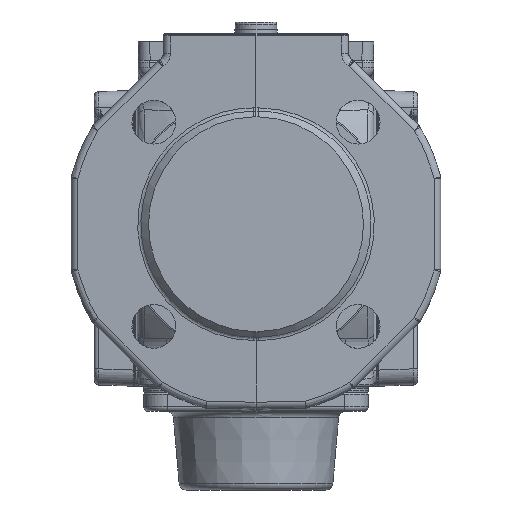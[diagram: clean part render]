
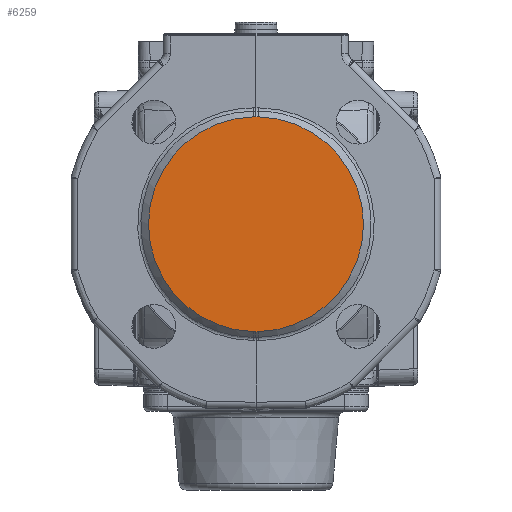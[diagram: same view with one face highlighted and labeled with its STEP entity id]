
A CAD part, left-side view. The second image highlights one B-rep face of the part: STEP entity #6259.
In plain terms, the highlighted planar face has unit normal (-1, 0, 0).
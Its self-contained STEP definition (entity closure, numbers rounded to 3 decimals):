
#3097=B_SPLINE_CURVE_WITH_KNOTS('',3,(#77345,#77346,#77347,#77348,#77349,
#77350,#77351),.UNSPECIFIED.,.F.,.F.,(4,3,4),(0.,0.37,1.),
 .UNSPECIFIED.);
#3101=B_SPLINE_CURVE_WITH_KNOTS('',3,(#77394,#77395,#77396,#77397,#77398,
#77399,#77400),.UNSPECIFIED.,.F.,.F.,(4,3,4),(0.,0.312,1.),
 .UNSPECIFIED.);
#3105=B_SPLINE_CURVE_WITH_KNOTS('',3,(#77458,#77459,#77460,#77461,#77462,
#77463,#77464),.UNSPECIFIED.,.F.,.F.,(4,3,4),(0.,0.312,1.),
 .UNSPECIFIED.);
#3109=B_SPLINE_CURVE_WITH_KNOTS('',3,(#77501,#77502,#77503,#77504,#77505,
#77506,#77507),.UNSPECIFIED.,.F.,.F.,(4,3,4),(0.,0.37,1.),
 .UNSPECIFIED.);
#6259=ADVANCED_FACE('',(#11169),#8892,.T.);
#8892=PLANE('',#58100);
#11169=FACE_OUTER_BOUND('',#14196,.T.);
#14196=EDGE_LOOP('',(#32478,#32479,#32480,#32481,#32482,#32483));
#17138=CIRCLE('',#56337,46.5);
#17139=CIRCLE('',#56339,46.5);
#32478=ORIENTED_EDGE('',*,*,#48020,.F.);
#32479=ORIENTED_EDGE('',*,*,#48017,.F.);
#32480=ORIENTED_EDGE('',*,*,#48026,.F.);
#32481=ORIENTED_EDGE('',*,*,#48028,.F.);
#32482=ORIENTED_EDGE('',*,*,#48022,.F.);
#32483=ORIENTED_EDGE('',*,*,#48013,.F.);
#42883=VERTEX_POINT('',#77344);
#42884=VERTEX_POINT('',#77352);
#42887=VERTEX_POINT('',#77393);
#42888=VERTEX_POINT('',#77401);
#42890=VERTEX_POINT('',#77465);
#42893=VERTEX_POINT('',#77500);
#48013=EDGE_CURVE('',#42883,#42884,#3097,.T.);
#48017=EDGE_CURVE('',#42887,#42888,#3101,.T.);
#48020=EDGE_CURVE('',#42888,#42883,#17138,.T.);
#48022=EDGE_CURVE('',#42884,#42890,#3105,.T.);
#48026=EDGE_CURVE('',#42893,#42887,#3109,.T.);
#48028=EDGE_CURVE('',#42890,#42893,#17139,.T.);
#56337=AXIS2_PLACEMENT_3D('',#77428,#62124,#62125);
#56339=AXIS2_PLACEMENT_3D('',#77529,#62128,#62129);
#58100=AXIS2_PLACEMENT_3D('',#100896,#66650,#66651);
#62124=DIRECTION('',(1.,0.,0.));
#62125=DIRECTION('',(0.,1.,0.));
#62128=DIRECTION('',(1.,0.,0.));
#62129=DIRECTION('',(0.,1.,0.));
#66650=DIRECTION('',(-1.,0.,0.));
#66651=DIRECTION('',(0.,1.,0.));
#77344=CARTESIAN_POINT('',(-120.,0.148,45.486));
#77345=CARTESIAN_POINT('',(-120.,0.148,45.486));
#77346=CARTESIAN_POINT('',(-120.,0.006,45.489));
#77347=CARTESIAN_POINT('',(-120.,-0.135,45.493));
#77348=CARTESIAN_POINT('',(-120.,-0.277,45.496));
#77349=CARTESIAN_POINT('',(-120.,-0.518,45.502));
#77350=CARTESIAN_POINT('',(-120.,-0.759,45.508));
#77351=CARTESIAN_POINT('',(-120.,-1.,45.514));
#77352=CARTESIAN_POINT('',(-120.,-1.,45.514));
#77393=CARTESIAN_POINT('',(-120.,-1.,-47.514));
#77394=CARTESIAN_POINT('',(-120.,-1.,-47.514));
#77395=CARTESIAN_POINT('',(-120.,-0.881,-47.511));
#77396=CARTESIAN_POINT('',(-120.,-0.762,-47.508));
#77397=CARTESIAN_POINT('',(-120.,-0.642,-47.505));
#77398=CARTESIAN_POINT('',(-120.,-0.379,-47.499));
#77399=CARTESIAN_POINT('',(-120.,-0.116,-47.492));
#77400=CARTESIAN_POINT('',(-120.,0.148,-47.486));
#77401=CARTESIAN_POINT('',(-120.,0.148,-47.486));
#77428=CARTESIAN_POINT('',(-120.,-1.,-1.));
#77458=CARTESIAN_POINT('',(-120.,-1.,45.514));
#77459=CARTESIAN_POINT('',(-120.,-1.119,45.511));
#77460=CARTESIAN_POINT('',(-120.,-1.238,45.508));
#77461=CARTESIAN_POINT('',(-120.,-1.358,45.505));
#77462=CARTESIAN_POINT('',(-120.,-1.621,45.499));
#77463=CARTESIAN_POINT('',(-120.,-1.884,45.492));
#77464=CARTESIAN_POINT('',(-120.,-2.148,45.486));
#77465=CARTESIAN_POINT('',(-120.,-2.148,45.486));
#77500=CARTESIAN_POINT('',(-120.,-2.148,-47.486));
#77501=CARTESIAN_POINT('',(-120.,-2.148,-47.486));
#77502=CARTESIAN_POINT('',(-120.,-2.006,-47.489));
#77503=CARTESIAN_POINT('',(-120.,-1.865,-47.493));
#77504=CARTESIAN_POINT('',(-120.,-1.723,-47.496));
#77505=CARTESIAN_POINT('',(-120.,-1.482,-47.502));
#77506=CARTESIAN_POINT('',(-120.,-1.241,-47.508));
#77507=CARTESIAN_POINT('',(-120.,-1.,-47.514));
#77529=CARTESIAN_POINT('',(-120.,-1.,-1.));
#100896=CARTESIAN_POINT('',(-120.,-1.,-1.));
